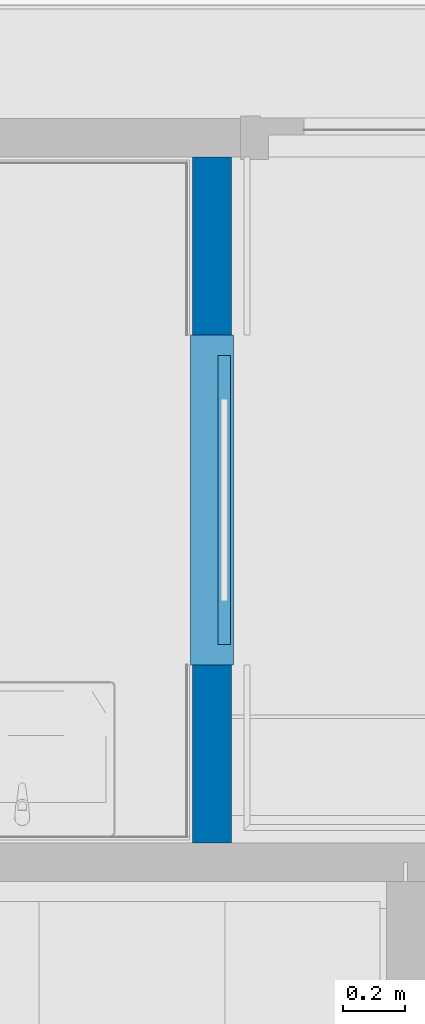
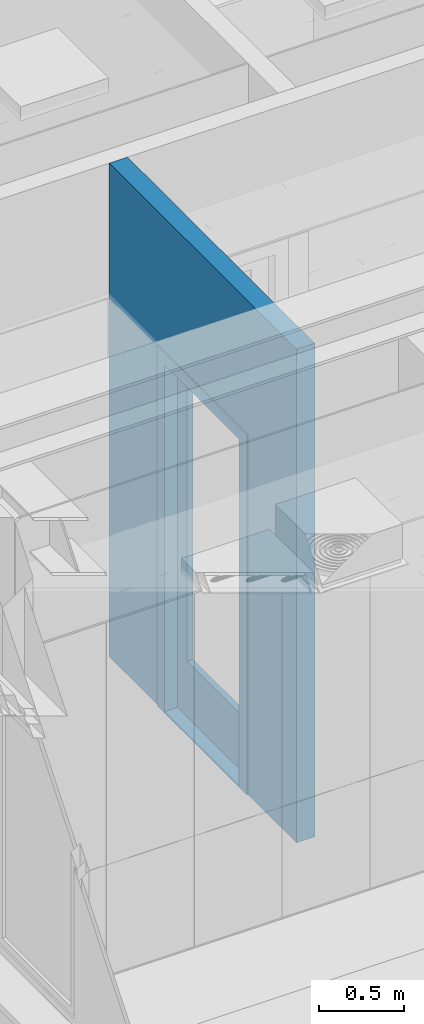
# One storey, part 6 of 347: 2 building element parts, 1 wall, 1 opening, 1 element without a shape of its own.
"""IFC2X3 building model written with IfcOpenShell, lengths in millimetres."""

from ifc_helpers import new_model, entity, si_unit, converted_unit, derived_unit, money_unit, direction, frame, origin_with_axes, place, context, subcontext, project, spatial, faceted_brep, source, transform, mapped, material, type_object, element, fill, aggregate, save


model = new_model("IFC2X3")

# Units and contexts
model_context = context("Model", 3, precision=0.01, world=origin_with_axes(), true_north=direction((0.0, 1.0)))
plan_context = context("Plan", 3, precision=0.01, world=origin_with_axes(), true_north=direction((0.0, 1.0)))
body_context = subcontext(model_context, "Body", "Model", "MODEL_VIEW")
ifc_project = project(units=[si_unit("LENGTHUNIT", "METRE", prefix="MILLI"), si_unit("AREAUNIT", "SQUARE_METRE"), si_unit("VOLUMEUNIT", "CUBIC_METRE"), converted_unit("PLANEANGLEUNIT", "DEGREE", entity("IfcPlaneAngleMeasure", 0.0174532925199), si_unit("PLANEANGLEUNIT", "RADIAN"), dimensions=[0, 0, 0, 0, 0, 0, 0]), money_unit("EUR"), converted_unit("TIMEUNIT", "Year", entity("IfcTimeMeasure", 31556926.0), si_unit("TIMEUNIT", "SECOND"), dimensions=[0, 0, 1, 0, 0, 0, 0]), si_unit("MASSUNIT", "GRAM", prefix="KILO"), si_unit("THERMODYNAMICTEMPERATUREUNIT", "DEGREE_CELSIUS"), si_unit("LUMINOUSINTENSITYUNIT", "LUMEN"), si_unit("ENERGYUNIT", "JOULE", prefix="MEGA"), derived_unit("THERMALCONDUCTANCEUNIT", [(si_unit("POWERUNIT", "WATT"), 1), (si_unit("LENGTHUNIT", "METRE"), -1), (si_unit("THERMODYNAMICTEMPERATUREUNIT", "KELVIN"), -1)]), derived_unit("SPECIFICHEATCAPACITYUNIT", [(si_unit("ENERGYUNIT", "JOULE"), 1), (si_unit("MASSUNIT", "GRAM", prefix="KILO"), -1), (si_unit("THERMODYNAMICTEMPERATUREUNIT", "KELVIN"), -1)]), derived_unit("MASSDENSITYUNIT", [(si_unit("MASSUNIT", "GRAM", prefix="KILO"), 1), (si_unit("VOLUMEUNIT", "CUBIC_METRE"), -1)])], contexts=[model_context, plan_context])

# Site, building, storey
site_placement = place(None, origin_with_axes())
site = spatial("IfcSite", under=ifc_project, at=site_placement, Name="Site", CompositionType="ELEMENT")
building_placement = place(site_placement, origin_with_axes())
building = spatial("IfcBuilding", under=site, at=building_placement, Name="Naam gebouw", CompositionType="ELEMENT")
storey_placement = place(building_placement, origin_with_axes())
storey = spatial("IfcBuildingStorey", under=building, at=storey_placement, Name="begane grond", CompositionType="ELEMENT", Elevation=0.0)

# Wall, opening, door, building element parts
ifc_material_1 = material(Name="ALG - LICHTE SCHEIDINGSWAND")
wall_type = type_object("IfcWallType", Name="ALG LSW 125 125", PredefinedType="NOTDEFINED")
wall_placement = place(storey_placement, frame((7500.0, 14400.0, 0.0), z_axis=(0.0, 0.0, 1.0), x_axis=(0.0, -1.0, 0.0)))
wall = element("IfcWall", 1, at=wall_placement, inside=storey, type_object=wall_type, material=ifc_material_1, Name="22_GF 125 ECO DGS/2.75.3A", context=body_context, shape_type="Brep", body=[
    faceted_brep([(1638.225, 0.0, 0.0), (1638.225, 0.0, 2600.0), (574.225, 0.0, 2600.0), (574.225, 0.0, 0.0), (0.0, 0.0, 0.0), (0.0, 0.0, 3560.0), (2212.5, 0.0, 3560.0), (2212.5, 0.0, 0.0), (1638.225, -125.0, 0.0), (1638.225, -125.0, 2600.0), (574.225, -125.0, 2600.0), (574.225, -125.0, 0.0), (0.0, -125.0, 0.0), (0.0, -125.0, 3560.0), (2212.5, -125.0, 3560.0), (2212.5, -125.0, 0.0)], [[[0, 1, 2, 3, 4, 5, 6, 7]], [[1, 0, 8, 9]], [[2, 1, 9, 10]], [[3, 2, 10, 11]], [[3, 11, 12, 4]], [[13, 5, 4, 12]], [[6, 5, 13, 14]], [[14, 15, 7, 6]], [[8, 0, 7, 15]], [[9, 8, 15, 14, 13, 12, 11, 10]]]),
])
opening_placement = place(wall_placement, frame((1106.225, 0.0, 0.0), z_axis=(0.0, 0.0, 1.0), x_axis=(1.0, 0.0, 0.0)))
opening = element("IfcOpeningElement", 2, at=opening_placement, cuts=wall, Name="32_02.04", context=body_context, shape_type="Brep", body=[
    faceted_brep([(532.0, -125.0, 2600.0), (532.0, -125.0, 0.0), (532.0, 257.0, 0.0), (532.0, 257.0, 2600.0), (-532.0, -125.0, 2600.0), (-532.0, -125.0, 0.0), (-532.0, 257.0, 0.0), (-532.0, 257.0, 2600.0)], [[[0, 1, 2, 3]], [[0, 4, 5, 1]], [[1, 5, 6, 2]], [[3, 2, 6, 7]], [[4, 0, 3, 7]], [[5, 4, 7, 6]]]),
])
door_style = type_object("IfcDoorStyle", Name="D1 25", ConstructionType="NOTDEFINED", OperationType="SINGLE_SWING_RIGHT", ParameterTakesPrecedence=False, Sizeable=False)
door_placement = place(opening_placement, frame((-532.0, 0.0, 0.0), z_axis=(0.0, 0.0, 1.0), x_axis=(1.0, 0.0, 0.0)))
door = element("IfcDoor", 3, at=door_placement, inside=storey, type_object=door_style, Name="32_02.04", ObjectType="DOOR", OverallHeight=2600.0, OverallWidth=1064.0)
fill(opening, door)
shared_shape_1 = source(origin_with_axes(), body_context, "Body", "Brep", [
    faceted_brep([(-467.0, -40.0, 10.0), (-442.0, -40.0, 10.0), (-442.0, -139.0, 10.0), (442.0, -139.0, 10.0), (442.0, -40.0, 10.0), (467.0, -40.0, 10.0), (467.0, 0.0, 10.0), (-467.0, 0.0, 10.0), (-467.0, -40.0, 0.0), (-442.0, -40.0, 0.0), (-442.0, -139.0, 0.0), (442.0, -139.0, 0.0), (442.0, -40.0, 0.0), (467.0, -40.0, 0.0), (467.0, 0.0, 0.0), (-467.0, 0.0, 0.0)], [[[0, 1, 2, 3, 4, 5, 6, 7]], [[1, 0, 8, 9]], [[10, 2, 1, 9]], [[2, 10, 11, 3]], [[3, 11, 12, 4]], [[5, 4, 12, 13]], [[13, 14, 6, 5]], [[15, 7, 6, 14]], [[8, 0, 7, 15]], [[9, 8, 15, 14, 13, 12, 11, 10]]]),
    faceted_brep([(-442.0, -50.0, 0.0), (-442.0, -50.0, 2510.0), (-442.0, -139.0, 2510.0), (-442.0, -139.0, 0.0), (-467.0, -50.0, 2510.0), (-467.0, -50.0, 0.0), (-467.0, 0.0, 2510.0), (-532.0, 0.0, 2510.0), (-532.0, -139.0, 2510.0), (-532.0, -139.0, 0.0), (-532.0, 0.0, 0.0), (-467.0, 0.0, 0.0)], [[[0, 1, 2, 3]], [[4, 1, 0, 5]], [[4, 6, 7, 8, 2, 1]], [[3, 2, 8, 9]], [[5, 0, 3, 9, 10, 11]], [[6, 4, 5, 11]], [[6, 11, 10, 7]], [[10, 9, 8, 7]]]),
    faceted_brep([(467.0, -50.0, 2510.0), (442.0, -50.0, 2510.0), (442.0, -139.0, 2510.0), (532.0, -139.0, 2510.0), (532.0, 0.0, 2510.0), (467.0, 0.0, 2510.0), (467.0, -50.0, 0.0), (442.0, -50.0, 0.0), (442.0, -139.0, 0.0), (532.0, -139.0, 0.0), (532.0, 0.0, 0.0), (467.0, 0.0, 0.0)], [[[0, 1, 2, 3, 4, 5]], [[1, 0, 6, 7]], [[1, 7, 8, 2]], [[3, 2, 8, 9]], [[4, 3, 9, 10]], [[11, 5, 4, 10]], [[0, 5, 11, 6]], [[6, 11, 10, 9, 8, 7]]]),
    faceted_brep([(-467.0, 0.0, 2535.0), (-467.0, 0.0, 2510.0), (-532.0, 0.0, 2510.0), (-532.0, 0.0, 2600.0), (532.0, 0.0, 2600.0), (532.0, 0.0, 2510.0), (467.0, 0.0, 2510.0), (467.0, 0.0, 2535.0), (-467.0, -50.0, 2535.0), (-467.0, -50.0, 2510.0), (-442.0, -50.0, 2510.0), (-442.0, -139.0, 2510.0), (-532.0, -139.0, 2510.0), (-532.0, -139.0, 2600.0), (532.0, -139.0, 2600.0), (532.0, -139.0, 2510.0), (467.0, -50.0, 2510.0), (442.0, -139.0, 2510.0), (442.0, -50.0, 2510.0), (467.0, -50.0, 2535.0)], [[[0, 1, 2, 3, 4, 5, 6, 7]], [[1, 0, 8, 9]], [[9, 10, 11, 12, 2, 1]], [[2, 12, 13, 3]], [[3, 13, 14, 4]], [[4, 14, 15, 5]], [[16, 6, 5, 15, 17, 18]], [[7, 6, 16, 19]], [[0, 7, 19, 8]], [[16, 18, 10, 9, 8, 19]], [[10, 18, 17, 11]], [[17, 15, 14, 13, 12, 11]]]),
])
building_element_part_1_placement = place(door_placement, origin_with_axes())
building_element_part_1 = element("IfcBuildingElementPart", 4, at=building_element_part_1_placement, context=body_context, shape_type="MappedRepresentation", body=[
    mapped(shared_shape_1, transform((532.0, 7.0, 0.0))),
])
ifc_material_2 = material(Name="Hout C")
shared_shape_2 = source(origin_with_axes(), body_context, "Body", "Brep", [
    faceted_brep([(467.0, -10.0, 10.0), (467.0, -50.0, 10.0), (-467.0, -50.0, 10.0), (-467.0, -10.0, 10.0), (467.0, -10.0, 2535.0), (467.0, -50.0, 2535.0), (-467.0, -50.0, 2535.0), (-326.397849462, -50.0, 2394.16334661), (326.397849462, -50.0, 2394.16334661), (326.397849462, -50.0, 412.390438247), (-326.397849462, -50.0, 412.390438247), (-467.0, -10.0, 2535.0), (-326.397849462, -10.0, 2394.16334661), (-326.397849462, -10.0, 412.390438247), (326.397849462, -10.0, 412.390438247), (326.397849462, -10.0, 2394.16334661)], [[[0, 1, 2, 3]], [[4, 5, 1, 0]], [[1, 5, 6, 2], [7, 8, 9, 10]], [[3, 2, 6, 11]], [[0, 3, 11, 4], [12, 13, 14, 15]], [[11, 6, 5, 4]], [[15, 8, 7, 12]], [[14, 9, 8, 15]], [[13, 10, 9, 14]], [[12, 7, 10, 13]]]),
])
building_element_part_2_placement = place(door_placement, origin_with_axes())
building_element_part_2 = element("IfcBuildingElementPart", 5, at=building_element_part_2_placement, material=ifc_material_2, Name="Hout C", context=body_context, shape_type="MappedRepresentation", body=[
    mapped(shared_shape_2, transform((532.0, 7.0, 0.0))),
])
aggregate(door, [building_element_part_1, building_element_part_2])

save(model, "model.ifc")
